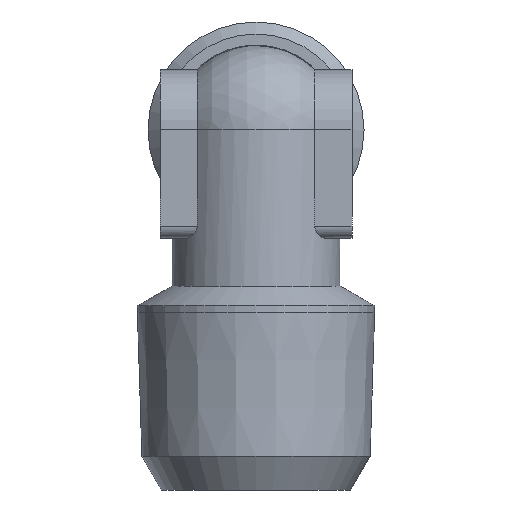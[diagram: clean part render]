
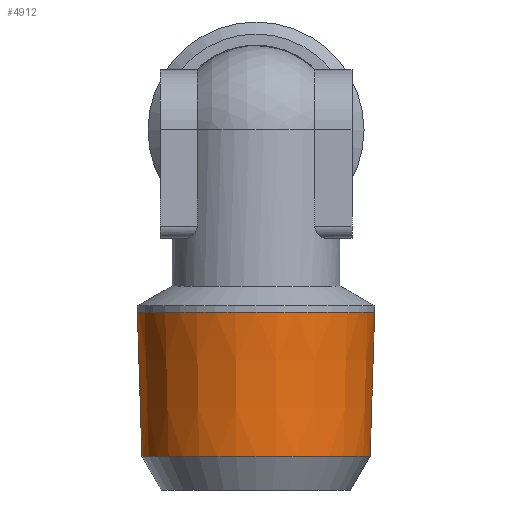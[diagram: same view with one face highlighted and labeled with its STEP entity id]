
A CAD part, left-side view. The second image highlights one B-rep face of the part: STEP entity #4912.
In plain terms, the highlighted conical face has half-angle 1.79 degrees and reference radius 4.942 mm.
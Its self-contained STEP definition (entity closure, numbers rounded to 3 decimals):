
#1878=ORIENTED_EDGE('',*,*,#2264,.F.);
#1879=ORIENTED_EDGE('',*,*,#2263,.F.);
#2041=CIRCLE('',#4796,4.942);
#2042=CIRCLE('',#4798,4.755);
#2138=VERTEX_POINT('',#4535);
#2139=VERTEX_POINT('',#4538);
#2263=EDGE_CURVE('',#2138,#2138,#2041,.T.);
#2264=EDGE_CURVE('',#2139,#2139,#2042,.T.);
#2375=EDGE_LOOP('',(#1878));
#2376=EDGE_LOOP('',(#1879));
#2477=FACE_BOUND('',#2375,.T.);
#2478=FACE_BOUND('',#2376,.T.);
#2748=DIRECTION('',(0.,1.,0.));
#2749=DIRECTION('',(0.,0.,4.942));
#2750=DIRECTION('',(0.,1.,0.));
#2751=DIRECTION('',(0.,0.,1.));
#2752=DIRECTION('',(0.,-1.,0.));
#2753=DIRECTION('',(0.,0.,4.755));
#4535=CARTESIAN_POINT('',(22.217,27.589,-4.942));
#4536=CARTESIAN_POINT('',(22.217,27.589,0.));
#4537=CARTESIAN_POINT('',(22.217,27.589,0.));
#4538=CARTESIAN_POINT('',(22.217,21.589,4.755));
#4539=CARTESIAN_POINT('',(22.217,21.589,0.));
#4796=AXIS2_PLACEMENT_3D('',#4536,#2748,#2749);
#4797=AXIS2_PLACEMENT_3D('',#4537,#2750,#2751);
#4798=AXIS2_PLACEMENT_3D('',#4539,#2752,#2753);
#4863=CONICAL_SURFACE('',#4797,4.942,1.79);
#4912=ADVANCED_FACE('',(#2477,#2478),#4863,.T.);
